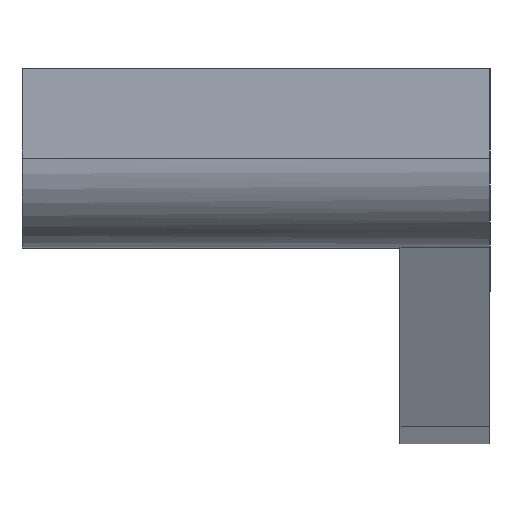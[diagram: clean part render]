
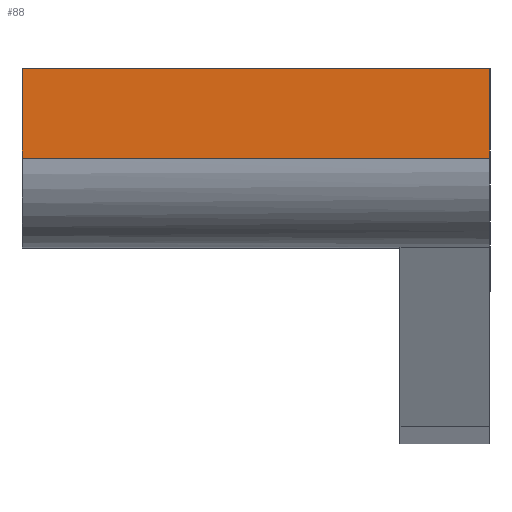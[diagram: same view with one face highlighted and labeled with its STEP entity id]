
A CAD part, left-side view. The second image highlights one B-rep face of the part: STEP entity #88.
In plain terms, the highlighted planar face has unit normal (-1, 0, 0).
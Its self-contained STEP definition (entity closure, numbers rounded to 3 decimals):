
#88 = ADVANCED_FACE( '', ( #124 ), #125, .T. );
#124 = FACE_OUTER_BOUND( '', #170, .T. );
#125 = PLANE( '', #171 );
#170 = EDGE_LOOP( '', ( #283, #284, #285, #286 ) );
#171 = AXIS2_PLACEMENT_3D( '', #287, #288, #289 );
#283 = ORIENTED_EDGE( '', *, *, #401, .F. );
#284 = ORIENTED_EDGE( '', *, *, #402, .F. );
#285 = ORIENTED_EDGE( '', *, *, #403, .F. );
#286 = ORIENTED_EDGE( '', *, *, #404, .T. );
#287 = CARTESIAN_POINT( '', ( -6., 0., 5.099 ) );
#288 = DIRECTION( '', ( -1., 0., 0. ) );
#289 = DIRECTION( '', ( 0., 1., 0. ) );
#401 = EDGE_CURVE( '', #483, #484, #485, .T. );
#402 = EDGE_CURVE( '', #486, #483, #487, .T. );
#403 = EDGE_CURVE( '', #488, #486, #489, .T. );
#404 = EDGE_CURVE( '', #488, #484, #490, .T. );
#483 = VERTEX_POINT( '', #599 );
#484 = VERTEX_POINT( '', #600 );
#485 = LINE( '', #601, #602 );
#486 = VERTEX_POINT( '', #603 );
#487 = LINE( '', #604, #605 );
#488 = VERTEX_POINT( '', #606 );
#489 = LINE( '', #607, #608 );
#490 = LINE( '', #609, #610 );
#599 = CARTESIAN_POINT( '', ( -6., -26., 0.099 ) );
#600 = CARTESIAN_POINT( '', ( -6., 0., 0.099 ) );
#601 = CARTESIAN_POINT( '', ( -6., -13., 0.099 ) );
#602 = VECTOR( '', #695, 1. );
#603 = CARTESIAN_POINT( '', ( -6., -26., 5.099 ) );
#604 = CARTESIAN_POINT( '', ( -6., -26., 5.099 ) );
#605 = VECTOR( '', #696, 1. );
#606 = CARTESIAN_POINT( '', ( -6., 0., 5.099 ) );
#607 = CARTESIAN_POINT( '', ( -6., 0., 5.099 ) );
#608 = VECTOR( '', #697, 1. );
#609 = CARTESIAN_POINT( '', ( -6., 0., 5.099 ) );
#610 = VECTOR( '', #698, 1. );
#695 = DIRECTION( '', ( 0., 1., 0. ) );
#696 = DIRECTION( '', ( 0., 0., -1. ) );
#697 = DIRECTION( '', ( 0., -1., 0. ) );
#698 = DIRECTION( '', ( 0., 0., -1. ) );
